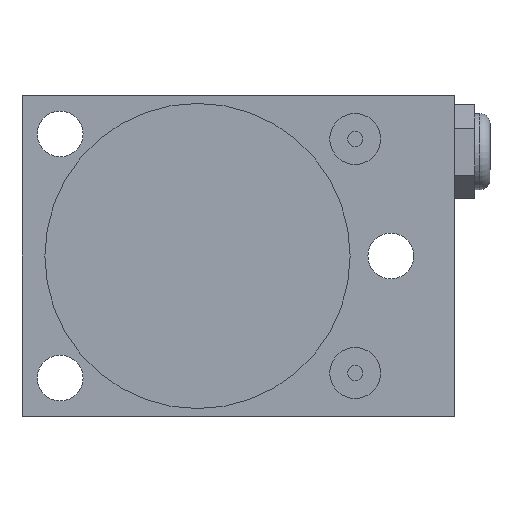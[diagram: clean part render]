
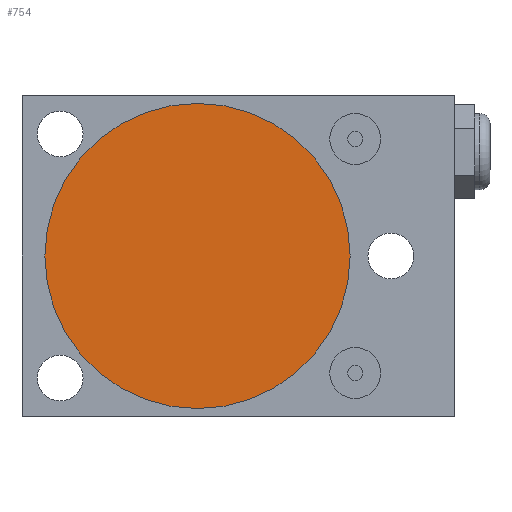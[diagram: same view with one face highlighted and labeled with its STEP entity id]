
A CAD part, front view. The second image highlights one B-rep face of the part: STEP entity #754.
In plain terms, the highlighted planar face has unit normal (0, -1, 0).
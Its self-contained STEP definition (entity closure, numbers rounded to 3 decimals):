
#149 = VERTEX_POINT ( 'NONE', #1093 ) ;
#278 = DIRECTION ( 'NONE',  ( 0., 0., 1. ) ) ;
#623 = EDGE_CURVE ( 'NONE', #149, #1999, #1278, .T. ) ;
#712 = AXIS2_PLACEMENT_3D ( 'NONE', #1376, #1174, #2431 ) ;
#754 = ADVANCED_FACE ( 'NONE', ( #1794 ), #1824, .F. ) ;
#755 = ORIENTED_EDGE ( 'NONE', *, *, #824, .F. ) ;
#775 = DIRECTION ( 'NONE',  ( 0., 0., 1. ) ) ;
#824 = EDGE_CURVE ( 'NONE', #1999, #149, #1671, .T. ) ;
#923 = DIRECTION ( 'NONE',  ( 0., 1., 0. ) ) ;
#928 = AXIS2_PLACEMENT_3D ( 'NONE', #990, #1631, #775 ) ;
#990 = CARTESIAN_POINT ( 'NONE',  ( 0., 0., 0. ) ) ;
#1093 = CARTESIAN_POINT ( 'NONE',  ( 0., 0., 30. ) ) ;
#1174 = DIRECTION ( 'NONE',  ( 0., 1., 0. ) ) ;
#1278 = CIRCLE ( 'NONE', #1540, 30. ) ;
#1329 = CARTESIAN_POINT ( 'NONE',  ( 0., 0., 0. ) ) ;
#1376 = CARTESIAN_POINT ( 'NONE',  ( 0., 0., 0. ) ) ;
#1540 = AXIS2_PLACEMENT_3D ( 'NONE', #1329, #923, #278 ) ;
#1631 = DIRECTION ( 'NONE',  ( 0., 1., 0. ) ) ;
#1671 = CIRCLE ( 'NONE', #712, 30. ) ;
#1794 = FACE_OUTER_BOUND ( 'NONE', #2032, .T. ) ;
#1824 = PLANE ( 'NONE',  #928 ) ;
#1999 = VERTEX_POINT ( 'NONE', #2331 ) ;
#2032 = EDGE_LOOP ( 'NONE', ( #755, #2429 ) ) ;
#2331 = CARTESIAN_POINT ( 'NONE',  ( 0., 0., -30. ) ) ;
#2429 = ORIENTED_EDGE ( 'NONE', *, *, #623, .F. ) ;
#2431 = DIRECTION ( 'NONE',  ( 0., 0., 1. ) ) ;
